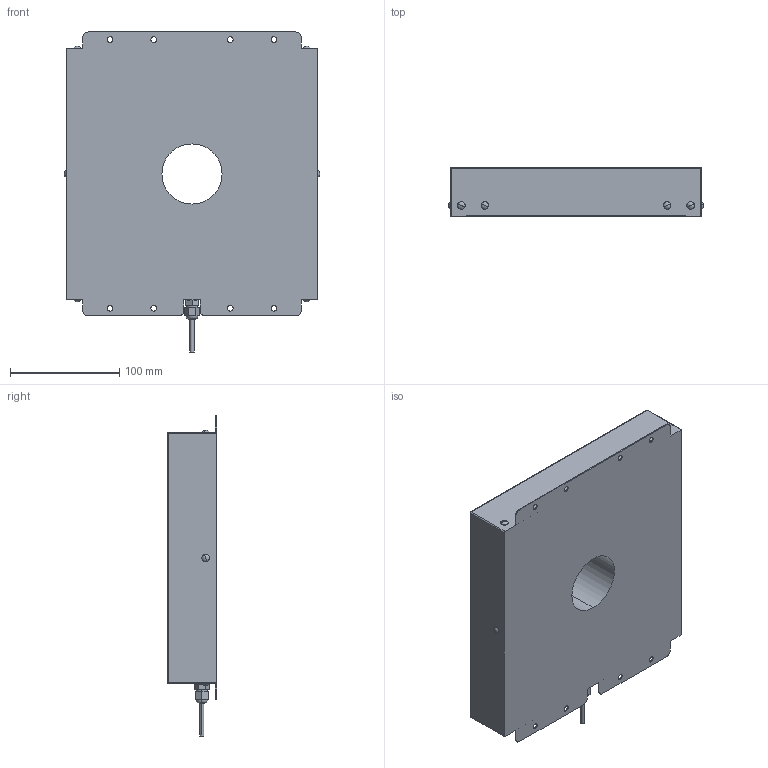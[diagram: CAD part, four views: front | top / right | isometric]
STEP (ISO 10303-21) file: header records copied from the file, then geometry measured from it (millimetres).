
FILE_DESCRIPTION (( 'STEP AP203' ), '1' );
FILE_NAME ('HDSBPA-200x200_-24-55D.STEP', '2023-04-18T06:10:20', ( '' ), ( '' ), 'SwSTEP 2.0', 'SolidWorks 2022', '' );
FILE_SCHEMA (( 'CONFIG_CONTROL_DESIGN' ));
Length unit declared in the file: millimetre
Products named in the file (1): HDSBPA-200x200_-24-55D
Bounding box: 233.8 x 45 x 293 mm (x, y, z)
Volume: 2244169.7 mm3; surface area: 163026.1 mm2
Topology: 1 solids, 1 shells, 148 faces, 400 edges, 244 vertices
Faces by surface type: cylinder 66, plane 52, sphere 28, torus 2
Entity records: 4511 total; most frequent: DIRECTION 844, CARTESIAN_POINT 741, ORIENTED_EDGE 720, EDGE_CURVE 360, AXIS2_PLACEMENT_3D 335, VERTEX_POINT 232, CIRCLE 186, EDGE_LOOP 184
